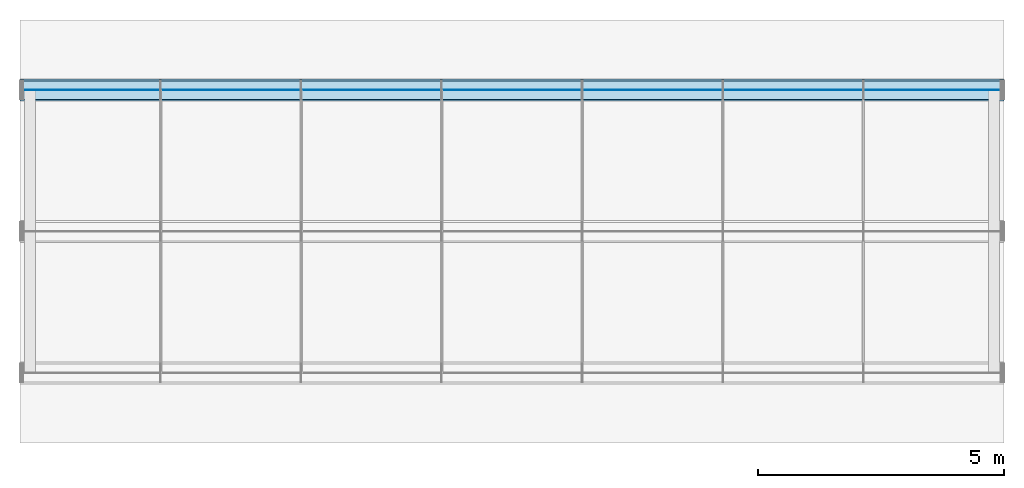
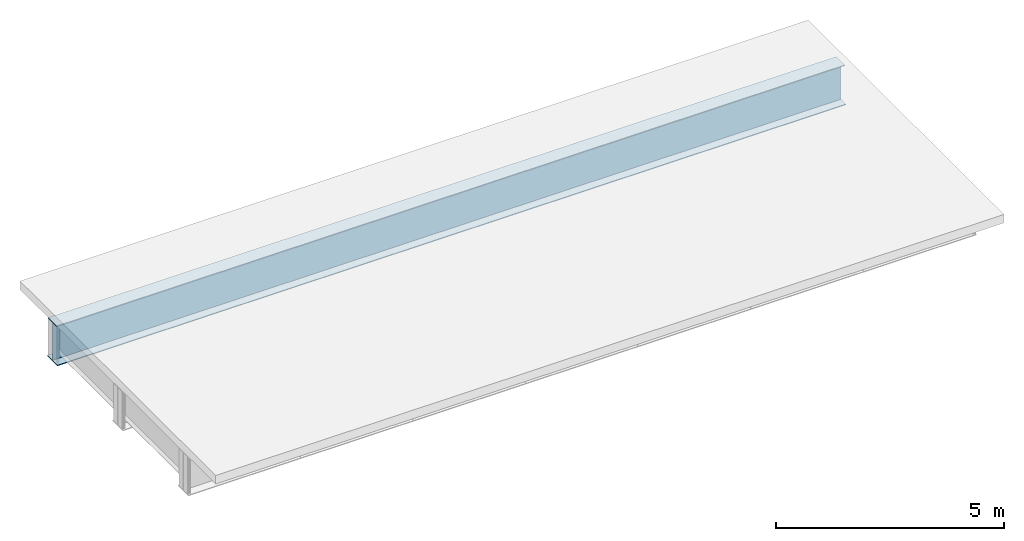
# One storey, part 7 of 8: 3 plates.
"""IFC4 building model written with IfcOpenShell, lengths in metres."""

from ifc_helpers import new_model, si_unit, frame, origin, origin_with_axes, origin_2d_with_axis, place, context, subcontext, project, spatial, rectangle, extrude, element, save


model = new_model("IFC4")

# Units and contexts
model_context = context("Model", 3, precision=1e-05, world=origin())
body_context = subcontext(model_context, "Body", "Model", "MODEL_VIEW")
ifc_project = project(units=[si_unit("LENGTHUNIT", "METRE"), si_unit("AREAUNIT", "SQUARE_METRE"), si_unit("VOLUMEUNIT", "CUBIC_METRE"), si_unit("PLANEANGLEUNIT", "RADIAN")], contexts=[model_context])

# Site, building, storey
site_placement = place(None, origin_with_axes())
site = spatial("IfcSite", under=ifc_project, at=site_placement, Name="Default Site")
building_placement = place(site_placement, origin_with_axes())
building = spatial("IfcBuilding", under=site, at=building_placement, Name="Bridge Structure")
storey_placement = place(building_placement, origin_with_axes())
storey = spatial("IfcBuildingStorey", under=building, at=storey_placement, Name="Superstructure")

# Plates
plate_1_placement = place(storey_placement, frame((0.0, 2.875, 0.0), z_axis=(1.0, 0.0, 0.0), x_axis=(0.0, 1.0, 0.0)))
element("IfcPlate", 1, at=plate_1_placement, inside=storey, Name="Girder Web 3", context=body_context, shape_type="SweptSolid", body=[
    extrude(rectangle(XDim=0.012, YDim=1.01, at=origin_2d_with_axis()), origin_with_axes(), (0.0, 0.0, 1.0), 20.0),
])
plate_2_placement = place(storey_placement, frame((0.0, 2.875, 0.514), z_axis=(1.0, 0.0, 0.0), x_axis=(0.0, 1.0, 0.0)))
element("IfcPlate", 2, at=plate_2_placement, inside=storey, Name="Top Flange 3", context=body_context, shape_type="SweptSolid", body=[
    extrude(rectangle(XDim=0.375, YDim=0.018000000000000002, at=origin_2d_with_axis()), origin_with_axes(), (0.0, 0.0, 1.0), 20.0),
])
plate_3_placement = place(storey_placement, frame((0.0, 2.875, -0.516), z_axis=(1.0, 0.0, 0.0), x_axis=(0.0, 1.0, 0.0)))
element("IfcPlate", 3, at=plate_3_placement, inside=storey, Name="Bottom Flange 3", context=body_context, shape_type="SweptSolid", body=[
    extrude(rectangle(XDim=0.45, YDim=0.022, at=origin_2d_with_axis()), origin_with_axes(), (0.0, 0.0, 1.0), 20.0),
])

save(model, "model.ifc")
